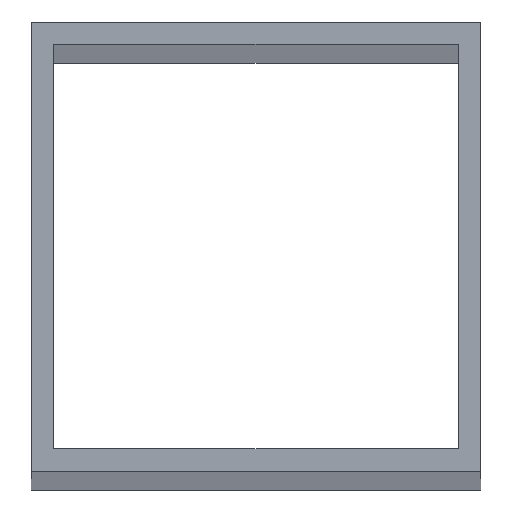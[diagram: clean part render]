
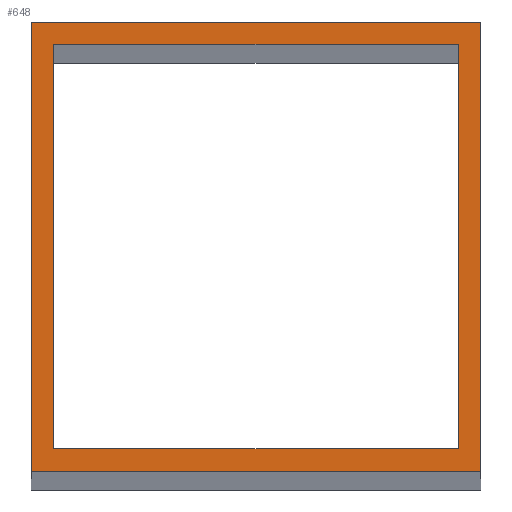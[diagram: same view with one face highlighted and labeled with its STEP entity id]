
A CAD part, top view. The second image highlights one B-rep face of the part: STEP entity #648.
In plain terms, the highlighted planar face has unit normal (0, 0, 1).
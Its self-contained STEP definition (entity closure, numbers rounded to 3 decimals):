
#24 = VERTEX_POINT('',#25);
#25 = CARTESIAN_POINT('',(-40.,-40.,1908.));
#32 = PLANE('',#33);
#33 = AXIS2_PLACEMENT_3D('',#34,#35,#36);
#34 = CARTESIAN_POINT('',(-40.,-40.,0.));
#35 = DIRECTION('',(0.,1.,0.));
#36 = DIRECTION('',(1.,0.,0.));
#44 = PLANE('',#45);
#45 = AXIS2_PLACEMENT_3D('',#46,#47,#48);
#46 = CARTESIAN_POINT('',(-40.,40.,0.));
#47 = DIRECTION('',(1.,0.,-0.));
#48 = DIRECTION('',(0.,-1.,0.));
#56 = EDGE_CURVE('',#24,#57,#59,.T.);
#57 = VERTEX_POINT('',#58);
#58 = CARTESIAN_POINT('',(40.,-40.,1908.));
#59 = SURFACE_CURVE('',#60,(#64,#71),.PCURVE_S1.);
#60 = LINE('',#61,#62);
#61 = CARTESIAN_POINT('',(-40.,-40.,1908.));
#62 = VECTOR('',#63,1.);
#63 = DIRECTION('',(1.,0.,0.));
#64 = PCURVE('',#32,#65);
#65 = DEFINITIONAL_REPRESENTATION('',(#66),#70);
#66 = LINE('',#67,#68);
#67 = CARTESIAN_POINT('',(0.,-1908.));
#68 = VECTOR('',#69,1.);
#69 = DIRECTION('',(1.,0.));
#70 = ( GEOMETRIC_REPRESENTATION_CONTEXT(2) 
PARAMETRIC_REPRESENTATION_CONTEXT() REPRESENTATION_CONTEXT('2D SPACE',''
  ) );
#71 = PCURVE('',#72,#77);
#72 = PLANE('',#73);
#73 = AXIS2_PLACEMENT_3D('',#74,#75,#76);
#74 = CARTESIAN_POINT('',(0.,0.,1908.));
#75 = DIRECTION('',(0.,0.,1.));
#76 = DIRECTION('',(1.,0.,-0.));
#77 = DEFINITIONAL_REPRESENTATION('',(#78),#82);
#78 = LINE('',#79,#80);
#79 = CARTESIAN_POINT('',(-40.,-40.));
#80 = VECTOR('',#81,1.);
#81 = DIRECTION('',(1.,0.));
#82 = ( GEOMETRIC_REPRESENTATION_CONTEXT(2) 
PARAMETRIC_REPRESENTATION_CONTEXT() REPRESENTATION_CONTEXT('2D SPACE',''
  ) );
#100 = PLANE('',#101);
#101 = AXIS2_PLACEMENT_3D('',#102,#103,#104);
#102 = CARTESIAN_POINT('',(40.,-40.,0.));
#103 = DIRECTION('',(-1.,0.,0.));
#104 = DIRECTION('',(0.,1.,0.));
#142 = EDGE_CURVE('',#57,#143,#145,.T.);
#143 = VERTEX_POINT('',#144);
#144 = CARTESIAN_POINT('',(40.,40.,1908.));
#145 = SURFACE_CURVE('',#146,(#150,#157),.PCURVE_S1.);
#146 = LINE('',#147,#148);
#147 = CARTESIAN_POINT('',(40.,-40.,1908.));
#148 = VECTOR('',#149,1.);
#149 = DIRECTION('',(0.,1.,0.));
#150 = PCURVE('',#100,#151);
#151 = DEFINITIONAL_REPRESENTATION('',(#152),#156);
#152 = LINE('',#153,#154);
#153 = CARTESIAN_POINT('',(0.,-1908.));
#154 = VECTOR('',#155,1.);
#155 = DIRECTION('',(1.,0.));
#156 = ( GEOMETRIC_REPRESENTATION_CONTEXT(2) 
PARAMETRIC_REPRESENTATION_CONTEXT() REPRESENTATION_CONTEXT('2D SPACE',''
  ) );
#157 = PCURVE('',#72,#158);
#158 = DEFINITIONAL_REPRESENTATION('',(#159),#163);
#159 = LINE('',#160,#161);
#160 = CARTESIAN_POINT('',(40.,-40.));
#161 = VECTOR('',#162,1.);
#162 = DIRECTION('',(0.,1.));
#163 = ( GEOMETRIC_REPRESENTATION_CONTEXT(2) 
PARAMETRIC_REPRESENTATION_CONTEXT() REPRESENTATION_CONTEXT('2D SPACE',''
  ) );
#181 = PLANE('',#182);
#182 = AXIS2_PLACEMENT_3D('',#183,#184,#185);
#183 = CARTESIAN_POINT('',(40.,40.,0.));
#184 = DIRECTION('',(0.,-1.,0.));
#185 = DIRECTION('',(-1.,0.,0.));
#218 = EDGE_CURVE('',#143,#219,#221,.T.);
#219 = VERTEX_POINT('',#220);
#220 = CARTESIAN_POINT('',(-40.,40.,1908.));
#221 = SURFACE_CURVE('',#222,(#226,#233),.PCURVE_S1.);
#222 = LINE('',#223,#224);
#223 = CARTESIAN_POINT('',(40.,40.,1908.));
#224 = VECTOR('',#225,1.);
#225 = DIRECTION('',(-1.,0.,0.));
#226 = PCURVE('',#181,#227);
#227 = DEFINITIONAL_REPRESENTATION('',(#228),#232);
#228 = LINE('',#229,#230);
#229 = CARTESIAN_POINT('',(0.,-1908.));
#230 = VECTOR('',#231,1.);
#231 = DIRECTION('',(1.,0.));
#232 = ( GEOMETRIC_REPRESENTATION_CONTEXT(2) 
PARAMETRIC_REPRESENTATION_CONTEXT() REPRESENTATION_CONTEXT('2D SPACE',''
  ) );
#233 = PCURVE('',#72,#234);
#234 = DEFINITIONAL_REPRESENTATION('',(#235),#239);
#235 = LINE('',#236,#237);
#236 = CARTESIAN_POINT('',(40.,40.));
#237 = VECTOR('',#238,1.);
#238 = DIRECTION('',(-1.,0.));
#239 = ( GEOMETRIC_REPRESENTATION_CONTEXT(2) 
PARAMETRIC_REPRESENTATION_CONTEXT() REPRESENTATION_CONTEXT('2D SPACE',''
  ) );
#289 = EDGE_CURVE('',#219,#24,#290,.T.);
#290 = SURFACE_CURVE('',#291,(#295,#302),.PCURVE_S1.);
#291 = LINE('',#292,#293);
#292 = CARTESIAN_POINT('',(-40.,40.,1908.));
#293 = VECTOR('',#294,1.);
#294 = DIRECTION('',(0.,-1.,0.));
#295 = PCURVE('',#44,#296);
#296 = DEFINITIONAL_REPRESENTATION('',(#297),#301);
#297 = LINE('',#298,#299);
#298 = CARTESIAN_POINT('',(0.,-1908.));
#299 = VECTOR('',#300,1.);
#300 = DIRECTION('',(1.,0.));
#301 = ( GEOMETRIC_REPRESENTATION_CONTEXT(2) 
PARAMETRIC_REPRESENTATION_CONTEXT() REPRESENTATION_CONTEXT('2D SPACE',''
  ) );
#302 = PCURVE('',#72,#303);
#303 = DEFINITIONAL_REPRESENTATION('',(#304),#308);
#304 = LINE('',#305,#306);
#305 = CARTESIAN_POINT('',(-40.,40.));
#306 = VECTOR('',#307,1.);
#307 = DIRECTION('',(0.,-1.));
#308 = ( GEOMETRIC_REPRESENTATION_CONTEXT(2) 
PARAMETRIC_REPRESENTATION_CONTEXT() REPRESENTATION_CONTEXT('2D SPACE',''
  ) );
#338 = VERTEX_POINT('',#339);
#339 = CARTESIAN_POINT('',(-36.,-36.,1908.));
#346 = PLANE('',#347);
#347 = AXIS2_PLACEMENT_3D('',#348,#349,#350);
#348 = CARTESIAN_POINT('',(-36.,-36.,0.));
#349 = DIRECTION('',(0.,1.,0.));
#350 = DIRECTION('',(1.,0.,0.));
#358 = PLANE('',#359);
#359 = AXIS2_PLACEMENT_3D('',#360,#361,#362);
#360 = CARTESIAN_POINT('',(-36.,36.,0.));
#361 = DIRECTION('',(1.,0.,-0.));
#362 = DIRECTION('',(0.,-1.,0.));
#370 = EDGE_CURVE('',#338,#371,#373,.T.);
#371 = VERTEX_POINT('',#372);
#372 = CARTESIAN_POINT('',(36.,-36.,1908.));
#373 = SURFACE_CURVE('',#374,(#378,#385),.PCURVE_S1.);
#374 = LINE('',#375,#376);
#375 = CARTESIAN_POINT('',(-36.,-36.,1908.));
#376 = VECTOR('',#377,1.);
#377 = DIRECTION('',(1.,0.,0.));
#378 = PCURVE('',#346,#379);
#379 = DEFINITIONAL_REPRESENTATION('',(#380),#384);
#380 = LINE('',#381,#382);
#381 = CARTESIAN_POINT('',(0.,-1908.));
#382 = VECTOR('',#383,1.);
#383 = DIRECTION('',(1.,0.));
#384 = ( GEOMETRIC_REPRESENTATION_CONTEXT(2) 
PARAMETRIC_REPRESENTATION_CONTEXT() REPRESENTATION_CONTEXT('2D SPACE',''
  ) );
#385 = PCURVE('',#72,#386);
#386 = DEFINITIONAL_REPRESENTATION('',(#387),#391);
#387 = LINE('',#388,#389);
#388 = CARTESIAN_POINT('',(-36.,-36.));
#389 = VECTOR('',#390,1.);
#390 = DIRECTION('',(1.,0.));
#391 = ( GEOMETRIC_REPRESENTATION_CONTEXT(2) 
PARAMETRIC_REPRESENTATION_CONTEXT() REPRESENTATION_CONTEXT('2D SPACE',''
  ) );
#409 = PLANE('',#410);
#410 = AXIS2_PLACEMENT_3D('',#411,#412,#413);
#411 = CARTESIAN_POINT('',(36.,-36.,0.));
#412 = DIRECTION('',(-1.,0.,0.));
#413 = DIRECTION('',(0.,1.,0.));
#446 = EDGE_CURVE('',#371,#447,#449,.T.);
#447 = VERTEX_POINT('',#448);
#448 = CARTESIAN_POINT('',(36.,36.,1908.));
#449 = SURFACE_CURVE('',#450,(#454,#461),.PCURVE_S1.);
#450 = LINE('',#451,#452);
#451 = CARTESIAN_POINT('',(36.,-36.,1908.));
#452 = VECTOR('',#453,1.);
#453 = DIRECTION('',(0.,1.,0.));
#454 = PCURVE('',#409,#455);
#455 = DEFINITIONAL_REPRESENTATION('',(#456),#460);
#456 = LINE('',#457,#458);
#457 = CARTESIAN_POINT('',(0.,-1908.));
#458 = VECTOR('',#459,1.);
#459 = DIRECTION('',(1.,0.));
#460 = ( GEOMETRIC_REPRESENTATION_CONTEXT(2) 
PARAMETRIC_REPRESENTATION_CONTEXT() REPRESENTATION_CONTEXT('2D SPACE',''
  ) );
#461 = PCURVE('',#72,#462);
#462 = DEFINITIONAL_REPRESENTATION('',(#463),#467);
#463 = LINE('',#464,#465);
#464 = CARTESIAN_POINT('',(36.,-36.));
#465 = VECTOR('',#466,1.);
#466 = DIRECTION('',(0.,1.));
#467 = ( GEOMETRIC_REPRESENTATION_CONTEXT(2) 
PARAMETRIC_REPRESENTATION_CONTEXT() REPRESENTATION_CONTEXT('2D SPACE',''
  ) );
#485 = PLANE('',#486);
#486 = AXIS2_PLACEMENT_3D('',#487,#488,#489);
#487 = CARTESIAN_POINT('',(36.,36.,0.));
#488 = DIRECTION('',(0.,-1.,0.));
#489 = DIRECTION('',(-1.,0.,0.));
#522 = EDGE_CURVE('',#447,#523,#525,.T.);
#523 = VERTEX_POINT('',#524);
#524 = CARTESIAN_POINT('',(-36.,36.,1908.));
#525 = SURFACE_CURVE('',#526,(#530,#537),.PCURVE_S1.);
#526 = LINE('',#527,#528);
#527 = CARTESIAN_POINT('',(36.,36.,1908.));
#528 = VECTOR('',#529,1.);
#529 = DIRECTION('',(-1.,0.,0.));
#530 = PCURVE('',#485,#531);
#531 = DEFINITIONAL_REPRESENTATION('',(#532),#536);
#532 = LINE('',#533,#534);
#533 = CARTESIAN_POINT('',(0.,-1908.));
#534 = VECTOR('',#535,1.);
#535 = DIRECTION('',(1.,0.));
#536 = ( GEOMETRIC_REPRESENTATION_CONTEXT(2) 
PARAMETRIC_REPRESENTATION_CONTEXT() REPRESENTATION_CONTEXT('2D SPACE',''
  ) );
#537 = PCURVE('',#72,#538);
#538 = DEFINITIONAL_REPRESENTATION('',(#539),#543);
#539 = LINE('',#540,#541);
#540 = CARTESIAN_POINT('',(36.,36.));
#541 = VECTOR('',#542,1.);
#542 = DIRECTION('',(-1.,0.));
#543 = ( GEOMETRIC_REPRESENTATION_CONTEXT(2) 
PARAMETRIC_REPRESENTATION_CONTEXT() REPRESENTATION_CONTEXT('2D SPACE',''
  ) );
#593 = EDGE_CURVE('',#523,#338,#594,.T.);
#594 = SURFACE_CURVE('',#595,(#599,#606),.PCURVE_S1.);
#595 = LINE('',#596,#597);
#596 = CARTESIAN_POINT('',(-36.,36.,1908.));
#597 = VECTOR('',#598,1.);
#598 = DIRECTION('',(0.,-1.,0.));
#599 = PCURVE('',#358,#600);
#600 = DEFINITIONAL_REPRESENTATION('',(#601),#605);
#601 = LINE('',#602,#603);
#602 = CARTESIAN_POINT('',(0.,-1908.));
#603 = VECTOR('',#604,1.);
#604 = DIRECTION('',(1.,0.));
#605 = ( GEOMETRIC_REPRESENTATION_CONTEXT(2) 
PARAMETRIC_REPRESENTATION_CONTEXT() REPRESENTATION_CONTEXT('2D SPACE',''
  ) );
#606 = PCURVE('',#72,#607);
#607 = DEFINITIONAL_REPRESENTATION('',(#608),#612);
#608 = LINE('',#609,#610);
#609 = CARTESIAN_POINT('',(-36.,36.));
#610 = VECTOR('',#611,1.);
#611 = DIRECTION('',(0.,-1.));
#612 = ( GEOMETRIC_REPRESENTATION_CONTEXT(2) 
PARAMETRIC_REPRESENTATION_CONTEXT() REPRESENTATION_CONTEXT('2D SPACE',''
  ) );
#648 = ADVANCED_FACE('',(#649,#655),#72,.T.);
#649 = FACE_BOUND('',#650,.T.);
#650 = EDGE_LOOP('',(#651,#652,#653,#654));
#651 = ORIENTED_EDGE('',*,*,#56,.T.);
#652 = ORIENTED_EDGE('',*,*,#142,.T.);
#653 = ORIENTED_EDGE('',*,*,#218,.T.);
#654 = ORIENTED_EDGE('',*,*,#289,.T.);
#655 = FACE_BOUND('',#656,.F.);
#656 = EDGE_LOOP('',(#657,#658,#659,#660));
#657 = ORIENTED_EDGE('',*,*,#370,.T.);
#658 = ORIENTED_EDGE('',*,*,#446,.T.);
#659 = ORIENTED_EDGE('',*,*,#522,.T.);
#660 = ORIENTED_EDGE('',*,*,#593,.T.);
